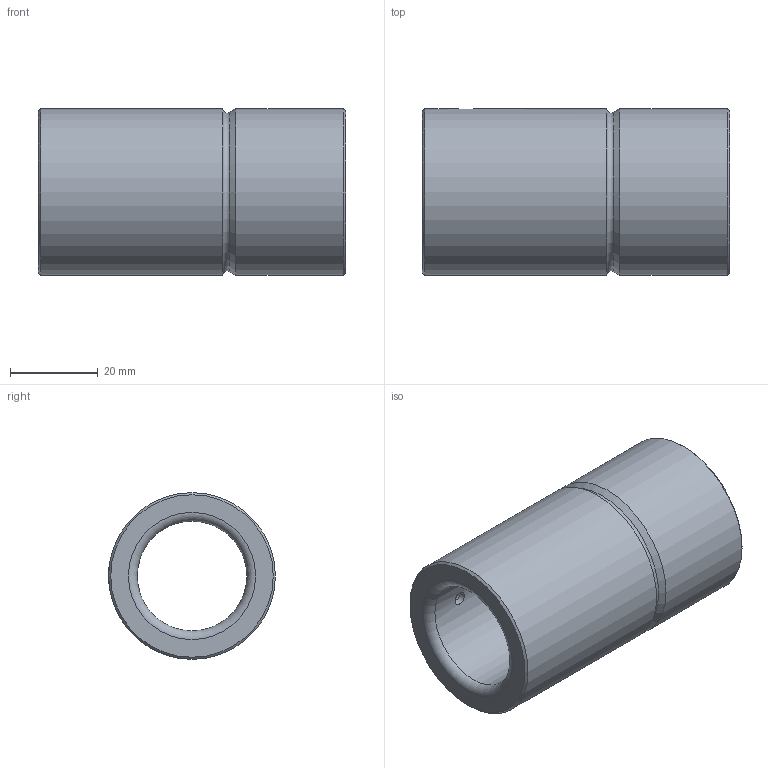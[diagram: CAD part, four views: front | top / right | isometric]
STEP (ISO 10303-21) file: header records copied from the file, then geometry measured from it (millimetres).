
FILE_DESCRIPTION( ( 'STEP AP214' ), '1' );
FILE_NAME( 'p:/temp/worker_32/temp/exporttempdir_1356_482_xtFMr/format_1/WZ 4068 25 x 70.stp', '2020-11-21T19:59:41', ( 'License CC BY-ND 4.0' ), ( 'CADENAS' ), ' ', 'PARTsolutions', ' ' );
FILE_SCHEMA( ( 'AUTOMOTIVE_DESIGN { 1 0 10303 214 1 1 1 1 }' ) );
Length unit declared in the file: millimetre
Products named in the file (1): _WZ 4068 25 x 70
Bounding box: 70 x 38.04 x 38.04 mm (x, y, z)
Volume: 42214.2 mm3; surface area: 15354.2 mm2
Topology: 1 solids, 1 shells, 16 faces, 29 edges, 17 vertices
Faces by surface type: cylinder 6, cone 4, plane 4, torus 2
Full cylindrical faces by diameter (mm): 3 x1, 5 x1, 25 x1, 27 x1, 38.04 x2
Entity records: 594 total; most frequent: CARTESIAN_POINT 165, DIRECTION 64, EDGE_LOOP 34, ORIENTED_EDGE 34, AXIS2_PLACEMENT_3D 32, FACE_OUTER_BOUND 24, EDGE_CURVE 17, VERTEX_POINT 17
